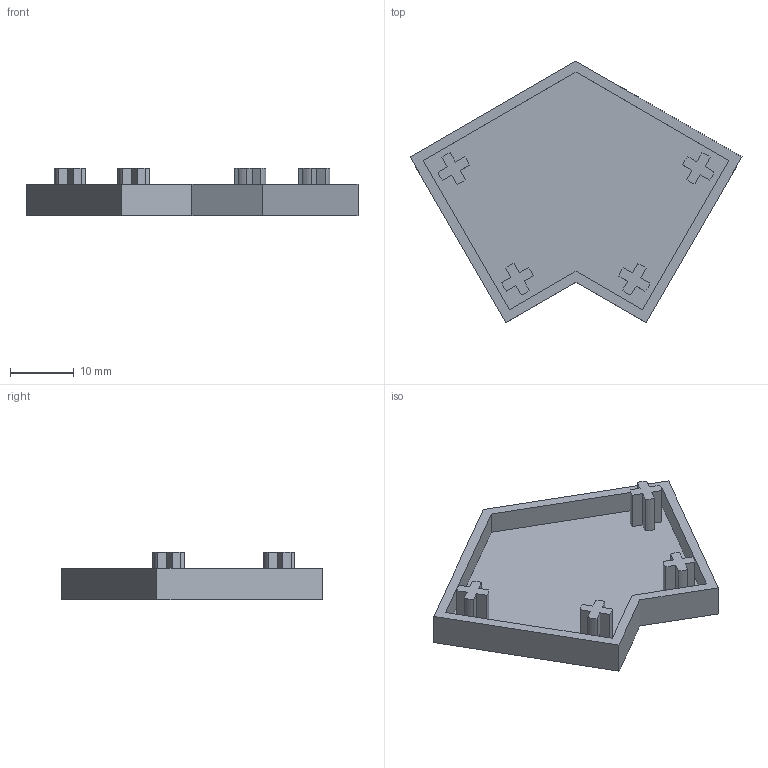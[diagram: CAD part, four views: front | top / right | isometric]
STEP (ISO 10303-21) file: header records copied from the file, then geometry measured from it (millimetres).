
FILE_DESCRIPTION (( 'STEP AP203' ), '1' );
FILE_NAME ('EC30120-6.STEP', '2024-02-17T07:16:24', ( '' ), ( '' ), 'SwSTEP 2.0', 'SolidWorks 2022', '' );
FILE_SCHEMA (( 'CONFIG_CONTROL_DESIGN' ));
Length unit declared in the file: millimetre
Products named in the file (1): EC30120-6
Bounding box: 51.96 x 40.98 x 7.5 mm (x, y, z)
Volume: 2952 mm3; surface area: 4213.5 mm2
Topology: 1 solids, 1 shells, 67 faces, 180 edges, 120 vertices
Faces by surface type: plane 51, cylinder 16
Entity records: 2163 total; most frequent: CARTESIAN_POINT 368, ORIENTED_EDGE 360, DIRECTION 348, EDGE_CURVE 180, LINE 148, VECTOR 148, VERTEX_POINT 120, AXIS2_PLACEMENT_3D 100
